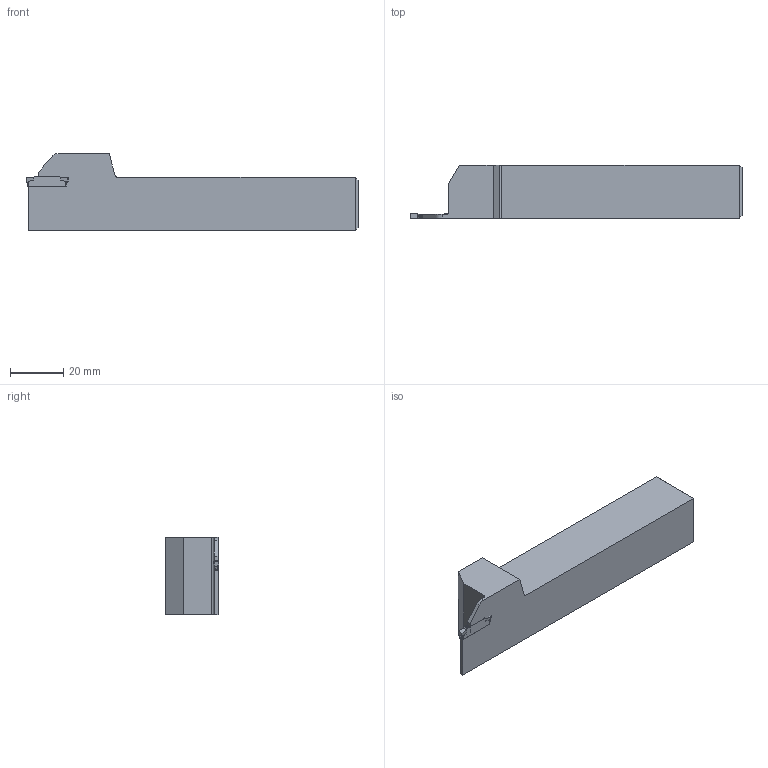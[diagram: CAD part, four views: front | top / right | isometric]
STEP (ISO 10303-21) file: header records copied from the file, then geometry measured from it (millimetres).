
FILE_DESCRIPTION(/* description */ (''),/* implementation_level */ '2;1');
FILE_NAME(/* name */ 'MGEHR2020-2-HAAS.stp',/* time_stamp */ '2021-10-15T15:13:40+09:00',/* author */ (''),/* organization */ (''),/* preprocessor_version */ 'ST-DEVELOPER v11',/* originating_system */ 'SIEMENS UGS NX 6.0',/* authorisation */ '');
FILE_SCHEMA (('CONFIG_CONTROL_DESIGN'));
Length unit declared in the file: millimetre
Products named in the file (1): user478Ezrju
Bounding box: 125 x 20.3 x 29 mm (x, y, z)
Volume: 47556.6 mm3; surface area: 10973.2 mm2
Topology: 2 solids, 4 shells, 79 faces, 205 edges, 134 vertices
Faces by surface type: plane 54, cylinder 23, bspline 2
Entity records: 2537 total; most frequent: CARTESIAN_POINT 501, ORIENTED_EDGE 410, DIRECTION 397, EDGE_CURVE 205, LINE 149, VECTOR 149, VERTEX_POINT 134, AXIS2_PLACEMENT_3D 124
